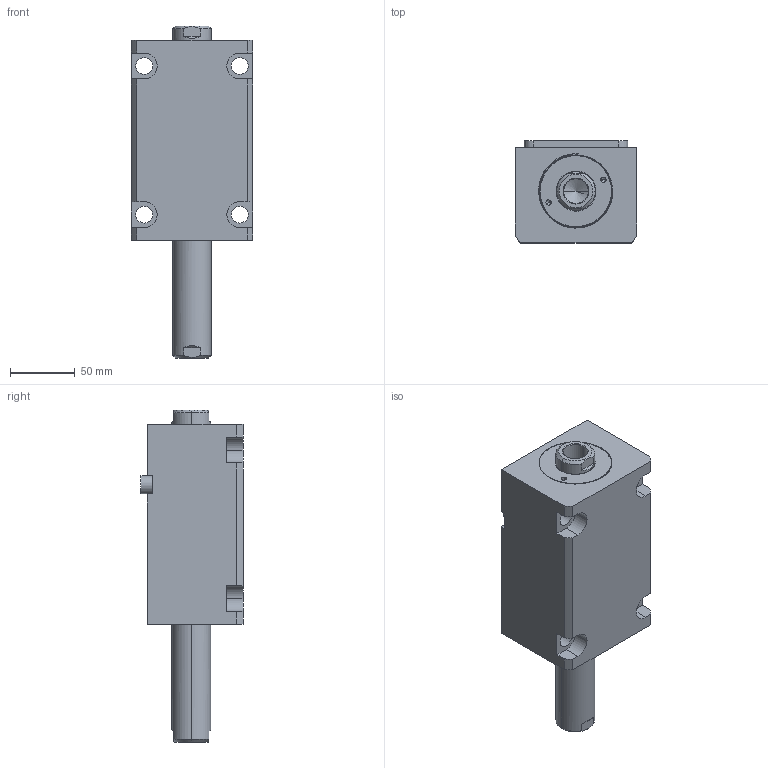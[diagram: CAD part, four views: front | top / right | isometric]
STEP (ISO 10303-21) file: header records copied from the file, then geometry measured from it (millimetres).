
FILE_DESCRIPTION (( 'STEP AP203' ), '1' );
FILE_NAME ('CHTB-LWM50-80N.STEP', '2018-05-22T06:58:31', ( '' ), ( '' ), 'SwSTEP 2.0', 'SolidWorks 2015', '' );
FILE_SCHEMA (( 'CONFIG_CONTROL_DESIGN' ));
Length unit declared in the file: millimetre
Products named in the file (4): 掛极LWM50-80N; CHTM-SDMA50QG; CHTB-LWM50-80N; 活塞杆LWM50-80N
Assembly tree (3 placements, depth 2):
  CHTB-LWM50-80N
    掛极LWM50-80N
    CHTM-SDMA50QG
    活塞杆LWM50-80N
Bounding box: 94 x 79 x 257 mm (x, y, z)
Volume: 977462.1 mm3; surface area: 147956.3 mm2
Topology: 3 solids, 3 shells, 213 faces, 571 edges, 374 vertices
Faces by surface type: cylinder 104, plane 57, cone 22, torus 16, bspline 14
Entity records: 11569 total; most frequent: CARTESIAN_POINT 6050, ORIENTED_EDGE 1126, DIRECTION 1011, EDGE_CURVE 563, AXIS2_PLACEMENT_3D 396, VERTEX_POINT 374, EDGE_LOOP 247, VECTOR 219
